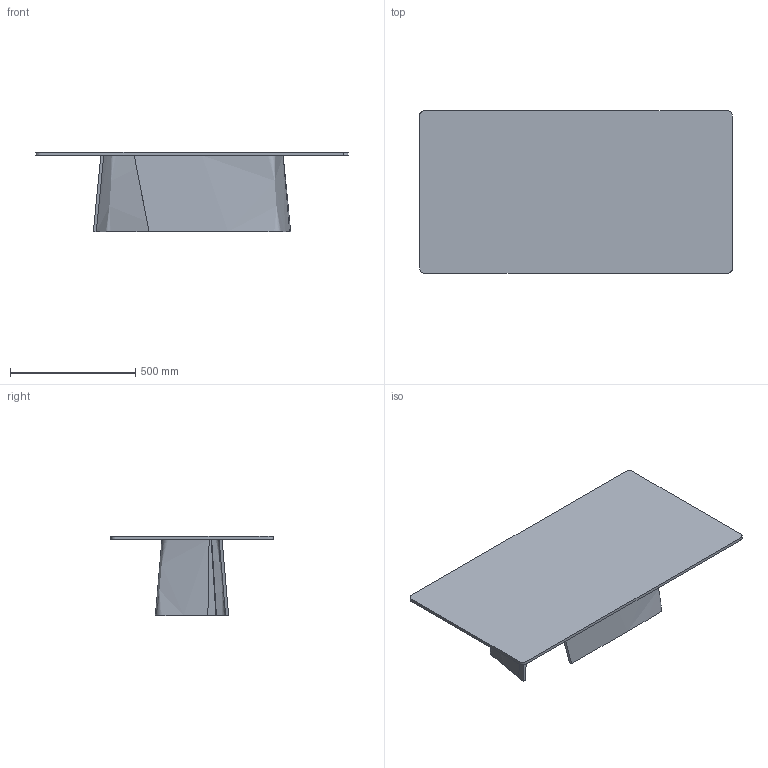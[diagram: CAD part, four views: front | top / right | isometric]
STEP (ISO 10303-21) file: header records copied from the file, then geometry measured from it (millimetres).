
FILE_DESCRIPTION(/* description */ (''),/* implementation_level */ '2;1');
FILE_NAME(/* name */ '500.501 - Accordo Tavolino rettangolare H32 125x65',/* time_stamp */ '2010-11-03T16:28:19+01:00',/* author */ (''),/* organization */ (''),/* preprocessor_version */ 'ST-DEVELOPER v10',/* originating_system */ '',/* authorisation */ '');
FILE_SCHEMA (('CONFIG_CONTROL_DESIGN'));
Length unit declared in the file: centimetre
Products named in the file (1): 1
Bounding box: 1250 x 650 x 317 mm (x, y, z)
Volume: 13597736.2 mm3; surface area: 2703818.9 mm2
Topology: 3 solids, 3 shells, 18 faces, 36 edges, 24 vertices
Faces by surface type: bspline 12, plane 6
Entity records: 726 total; most frequent: CARTESIAN_POINT 424, ORIENTED_EDGE 72, EDGE_CURVE 36, VERTEX_POINT 24, ADVANCED_FACE 18, FACE_OUTER_BOUND 18, EDGE_LOOP 18, DIRECTION 10
